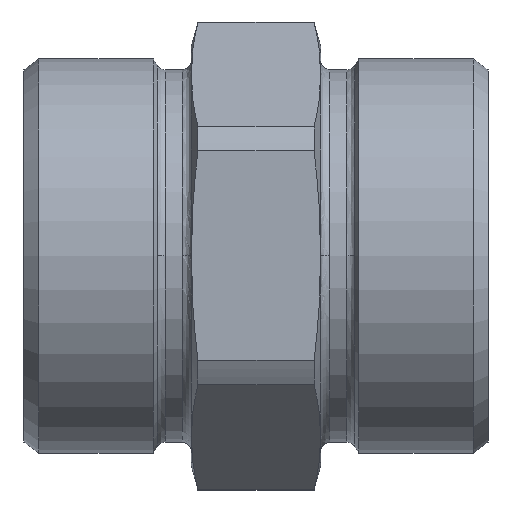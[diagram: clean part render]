
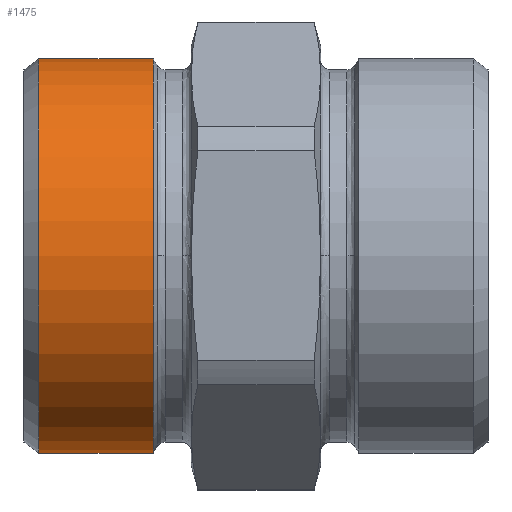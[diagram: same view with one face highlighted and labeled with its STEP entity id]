
A CAD part, top view. The second image highlights one B-rep face of the part: STEP entity #1475.
In plain terms, the highlighted cylindrical face has radius 25.91 mm (diameter 51.82 mm), a partial arc.
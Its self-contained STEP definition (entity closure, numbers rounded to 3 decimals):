
#859=CARTESIAN_POINT('',(0.,-25.91,28.563));
#860=VERTEX_POINT('',#859);
#861=CARTESIAN_POINT('',(0.,-25.91,13.493));
#862=VERTEX_POINT('',#861);
#863=CARTESIAN_POINT('',(0.,-25.91,28.563));
#864=DIRECTION('',(0.0,0.0,-1.0));
#865=VECTOR('',#864,15.07);
#866=LINE('',#863,#865);
#867=EDGE_CURVE('',#860,#862,#866,.T.);
#869=CARTESIAN_POINT('',(0.,25.91,28.563));
#870=VERTEX_POINT('',#869);
#878=CARTESIAN_POINT('',(0.,25.91,13.493));
#879=VERTEX_POINT('',#878);
#880=CARTESIAN_POINT('',(0.,25.91,13.493));
#881=DIRECTION('',(0.0,0.0,1.0));
#882=VECTOR('',#881,15.07);
#883=LINE('',#880,#882);
#884=EDGE_CURVE('',#879,#870,#883,.T.);
#1351=CARTESIAN_POINT('',(0.,0.,13.493));
#1352=DIRECTION('',(0.0,0.0,-1.0));
#1353=DIRECTION('',(0.0,-1.0,0.0));
#1354=AXIS2_PLACEMENT_3D('',#1351,#1352,#1353);
#1355=CIRCLE('',#1354,25.91);
#1356=EDGE_CURVE('',#879,#862,#1355,.T.);
#1452=CARTESIAN_POINT('',(0.,0.,28.563));
#1453=DIRECTION('',(0.0,0.0,-1.0));
#1454=DIRECTION('',(0.0,-1.0,0.0));
#1455=AXIS2_PLACEMENT_3D('',#1452,#1453,#1454);
#1456=CIRCLE('',#1455,25.91);
#1457=EDGE_CURVE('',#870,#860,#1456,.T.);
#1464=CARTESIAN_POINT('',(0.,0.,21.028));
#1465=DIRECTION('',(0.,0.,-1.0));
#1466=DIRECTION('',(0.0,-1.0,0.0));
#1467=AXIS2_PLACEMENT_3D('',#1464,#1465,#1466);
#1468=CYLINDRICAL_SURFACE('',#1467,25.91);
#1469=ORIENTED_EDGE('',*,*,#867,.T.);
#1470=ORIENTED_EDGE('',*,*,#1356,.F.);
#1471=ORIENTED_EDGE('',*,*,#884,.T.);
#1472=ORIENTED_EDGE('',*,*,#1457,.T.);
#1473=EDGE_LOOP('',(#1469,#1470,#1471,#1472));
#1474=FACE_OUTER_BOUND('',#1473,.T.);
#1475=ADVANCED_FACE('',(#1474),#1468,.T.);
